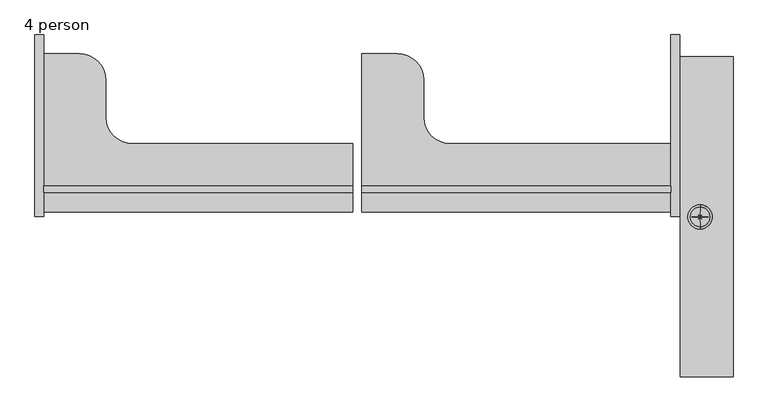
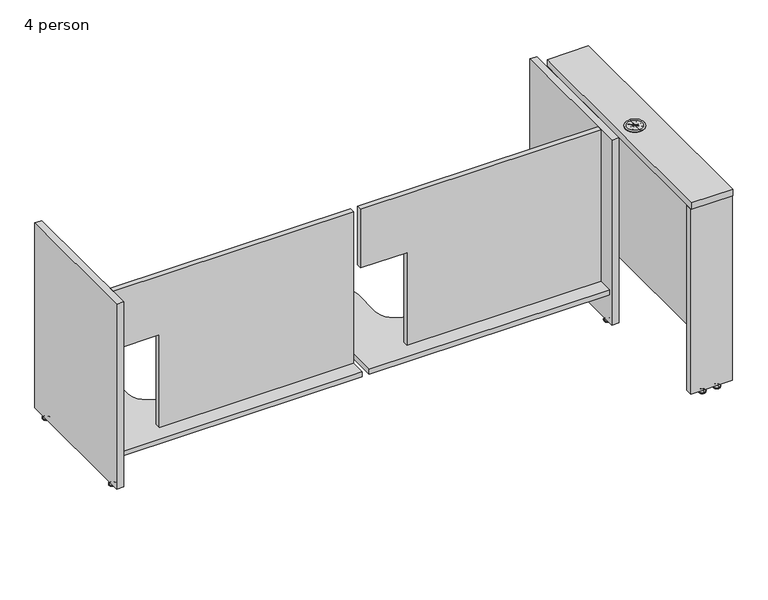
"""IFC4 building model written with IfcOpenShell, lengths in millimetres: furniture geometry, Nova Solutions - Collaboration Table - Keystone_4-5 person : 4 person."""

from ifc_helpers import new_model, si_unit, point, frame, frame_2d, origin, place, context, project, spatial, polyline, circle_curve, ellipse_curve, trimmed, segment, composite_curve, outline, extrude, source, transform, mapped, element, save
from ifc_brep_helpers import plane_surface, cylinder_surface, revolved_surface, advanced_brep


def furniture_4_person_910c4855(model_context):
    return source(origin(), model_context, "Body", "SolidModel", [
        advanced_brep(
        [(981.65, -34.925, 762.0), (981.65, 34.925, 762.0), (981.65, 24.6435157, 762.0), (980.503542, 2.7677944, 762.0), (964.2244029, 17.4255971, 762.0), (978.8822056, 1.146458, 762.0), (957.0064843, 0.0, 762.0), (978.8822056, -1.146458, 762.0), (964.2244029, -17.4255971, 762.0), (980.503542, -2.7677944, 762.0), (981.65, -24.6435157, 762.0), (982.796458, -2.7677944, 762.0), (999.0755971, -17.4255971, 762.0), (984.4177944, -1.146458, 762.0), (1006.2935157, 0.0, 762.0), (984.4177944, 1.146458, 762.0), (999.0755971, 17.4255971, 762.0), (982.796458, 2.7677944, 762.0), (981.65, -34.925, 763.3787817), (981.65, 34.925, 763.3787817), (981.65, -28.7119174, 765.175), (981.65, 28.7119174, 765.175), (981.65, -24.6435157, 765.175), (980.503542, -2.7677944, 765.175), (964.2244029, -17.4255971, 765.175), (978.8822056, -1.146458, 765.175), (957.0064843, 0.0, 765.175), (978.8822056, 1.146458, 765.175), (964.2244029, 17.4255971, 765.175), (980.503542, 2.7677944, 765.175), (981.65, 24.6435157, 765.175), (982.796458, 2.7677944, 765.175), (999.0755971, 17.4255971, 765.175), (984.4177944, 1.146458, 765.175), (1006.2935157, 0.0, 765.175), (984.4177944, -1.146458, 765.175), (999.0755971, -17.4255971, 765.175), (982.796458, -2.7677944, 765.175)],
        [
            (0, 1, circle_curve(frame((981.65, 0.0, 762.0), z_axis=(0.0, 0.0, -1.0), x_axis=(0.0, 1.0, 0.0)), 34.925)),
            (1, 2),
            (2, 3),
            (3, 4),
            (4, 5),
            (5, 6),
            (6, 7),
            (7, 8),
            (8, 9),
            (9, 10),
            (10, 0),
            (1, 0, circle_curve(frame((981.65, 0.0, 762.0), z_axis=(0.0, 0.0, -1.0), x_axis=(0.0, 1.0, 0.0)), 34.925)),
            (10, 11),
            (11, 12),
            (12, 13),
            (13, 14),
            (14, 15),
            (15, 16),
            (16, 17),
            (17, 2),
            (0, 18),
            (18, 19, circle_curve(frame((981.65, 0.0, 763.3787817), z_axis=(0.0, 0.0, -1.0), x_axis=(0.0, 1.0, 0.0)), 34.925)),
            (19, 1),
            (19, 18, circle_curve(frame((981.65, 0.0, 763.3787817), z_axis=(0.0, 0.0, -1.0), x_axis=(0.0, 1.0, 0.0)), 34.925)),
            (18, 20, circle_curve(frame((981.65, -31.558813, 763.3787817), z_axis=(-1.0, 0.0, 0.0), x_axis=(0.0, -1.0, 0.0)), 3.366187)),
            (20, 21, circle_curve(frame((981.65, 0.0, 765.175), z_axis=(0.0, 0.0, -1.0), x_axis=(0.0, 1.0, 0.0)), 28.7119174)),
            (21, 19, circle_curve(frame((981.65, 31.558813, 763.3787817), z_axis=(-1.0, 0.0, 0.0), x_axis=(0.0, 1.0, 0.0)), 3.366187)),
            (21, 20, circle_curve(frame((981.65, 0.0, 765.175), z_axis=(0.0, 0.0, -1.0), x_axis=(0.0, 1.0, 0.0)), 28.7119174)),
            (20, 22),
            (22, 23),
            (23, 24),
            (24, 25),
            (25, 26),
            (26, 27),
            (27, 28),
            (28, 29),
            (29, 30),
            (30, 21),
            (30, 31),
            (31, 32),
            (32, 33),
            (33, 34),
            (34, 35),
            (35, 36),
            (36, 37),
            (37, 22),
            (26, 6),
            (5, 27),
            (25, 7),
            (24, 8),
            (23, 9),
            (22, 10),
            (37, 11),
            (36, 12),
            (35, 13),
            (34, 14),
            (33, 15),
            (32, 16),
            (31, 17),
            (30, 2),
            (29, 3),
            (28, 4),
        ],
        [
            plane_surface(frame((981.65, 0.0, 762.0), z_axis=(0.0, 0.0, -1.0), x_axis=(0.0, 1.0, 0.0))),
            cylinder_surface(frame((981.65, 0.0, 850.9), z_axis=(0.0, 0.0, 1.0), x_axis=(0.0, 1.0, 0.0)), 34.925),
            revolved_surface(trimmed(ellipse_curve(frame((981.65, 31.558813, 763.3787817), z_axis=(1.0, 0.0, 0.0), x_axis=(0.0, 1.0, 0.0)), 3.366187, 3.366187), [point((981.65, 34.925, 763.3787817))], [point((981.65, 28.7119174, 765.175))], True, "CARTESIAN"), (981.65, 0.0, 850.9), (0.0, 0.0, 1.0)),
            plane_surface(frame((981.65, 0.0, 765.175), z_axis=(0.0, 0.0, 1.0), x_axis=(0.0, 1.0, 0.0))),
            plane_surface(frame((981.65, 1.2915119, 787.4), z_axis=(0.05233595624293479, -0.9986295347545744, 0.0), x_axis=(0.0, 0.0, -1.0))),
            plane_surface(frame((957.0064843, 0.0, 787.4), z_axis=(0.052335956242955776, 0.9986295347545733, 0.0), x_axis=(0.0, 0.0, -1.0))),
            plane_surface(frame((980.7367632, 0.9132368, 787.4), z_axis=(0.7431448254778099, -0.6691306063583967, 0.0), x_axis=(0.0, 0.0, -1.0))),
            plane_surface(frame((964.2244029, -17.4255971, 787.4), z_axis=(-0.6691306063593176, 0.7431448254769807, 0.0), x_axis=(0.0, 0.0, -1.0))),
            plane_surface(frame((980.3584881, 0.0, 787.4), z_axis=(0.9986295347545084, 0.05233595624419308, 0.0), x_axis=(0.0, 0.0, -1.0))),
            plane_surface(frame((981.65, -24.6435157, 787.4), z_axis=(-0.9986295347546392, 0.05233595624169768, 0.0), x_axis=(0.0, 0.0, -1.0))),
            plane_surface(frame((980.7367632, -0.9132368, 787.4), z_axis=(0.6691306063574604, 0.743144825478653, 0.0), x_axis=(0.0, 0.0, -1.0))),
            plane_surface(frame((999.0755971, -17.4255971, 787.4), z_axis=(-0.7431448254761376, -0.669130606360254, 0.0), x_axis=(0.0, 0.0, -1.0))),
            plane_surface(frame((981.65, -1.2915119, 787.4), z_axis=(-0.052335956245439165, 0.9986295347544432, 0.0), x_axis=(0.0, 0.0, -1.0))),
            plane_surface(frame((1006.2935157, 0.0, 787.4), z_axis=(-0.05233595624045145, -0.9986295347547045, 0.0), x_axis=(0.0, 0.0, -1.0))),
            plane_surface(frame((982.5632368, -0.9132368, 787.4), z_axis=(-0.7431448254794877, 0.6691306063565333, 0.0), x_axis=(0.0, 0.0, -1.0))),
            plane_surface(frame((999.0755971, 17.4255971, 787.4), z_axis=(0.669130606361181, -0.7431448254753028, 0.0), x_axis=(0.0, 0.0, -1.0))),
            plane_surface(frame((982.9415119, 0.0, 787.4), z_axis=(-0.9986295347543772, -0.05233595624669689, 0.0), x_axis=(0.0, 0.0, -1.0))),
            plane_surface(frame((981.65, 24.6435157, 787.4), z_axis=(0.9986295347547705, -0.05233595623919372, 0.0), x_axis=(0.0, 0.0, -1.0))),
            plane_surface(frame((982.5632368, 0.9132368, 787.4), z_axis=(-0.6691306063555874, -0.7431448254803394, 0.0), x_axis=(0.0, 0.0, -1.0))),
            plane_surface(frame((964.2244029, 17.4255971, 787.4), z_axis=(0.743144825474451, 0.669130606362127, 0.0), x_axis=(0.0, 0.0, -1.0))),
        ],
        [
            (0, [[1, 2, 3, 4, 5, 6, 7, 8, 9, 10, 11]]),
            (0, [[12, -11, 13, 14, 15, 16, 17, 18, 19, 20, -2]]),
            (1, [[-1, 21, 22, 23]]),
            (1, [[-12, -23, 24, -21]]),
            (2, [[-22, 25, 26, 27]]),
            (2, [[-24, -27, 28, -25]]),
            (3, [[-26, 29, 30, 31, 32, 33, 34, 35, 36, 37, 38]]),
            (3, [[-28, -38, 39, 40, 41, 42, 43, 44, 45, 46, -29]]),
            (4, [[47, -6, 48, -34]]),
            (5, [[-47, -33, 49, -7]]),
            (6, [[50, -8, -49, -32]]),
            (7, [[-50, -31, 51, -9]]),
            (8, [[52, -10, -51, -30]]),
            (9, [[-52, -46, 53, -13]]),
            (10, [[54, -14, -53, -45]]),
            (11, [[-54, -44, 55, -15]]),
            (12, [[56, -16, -55, -43]]),
            (13, [[-56, -42, 57, -17]]),
            (14, [[58, -18, -57, -41]]),
            (15, [[-58, -40, 59, -19]]),
            (16, [[60, -20, -59, -39]]),
            (17, [[-60, -37, 61, -3]]),
            (18, [[62, -4, -61, -36]]),
            (19, [[-62, -35, -48, -5]]),
        ],
    ),
        advanced_brep(
        [(1027.6359375, 451.0276506, 11.1125), (1027.6359375, 437.6723494, 11.1125), (1027.6359375, 444.35, 11.1125), (1027.6359375, 451.0276506, 9.525), (1027.6359375, 437.6723494, 9.525), (1027.6359375, 456.2355135, 4.7748687), (1027.6359375, 432.4644865, 4.7748687), (1027.6359375, 457.0966506, 3.989419), (1027.6359375, 431.6033494, 3.989419), (1027.6359375, 457.0966506, 3.175), (1027.6359375, 431.6033494, 3.175), (1027.6359375, 456.2459119, 0.0), (1027.6359375, 432.4540881, 0.0), (1027.6359375, 444.35, 0.0)],
        [
            (0, 1, circle_curve(frame((1027.6359375, 444.35, 11.1125), z_axis=(0.0, 0.0, 1.0), x_axis=(0.0, -1.0, 0.0)), 6.6776506)),
            (1, 2),
            (2, 0),
            (1, 0, circle_curve(frame((1027.6359375, 444.35, 11.1125), z_axis=(0.0, 0.0, 1.0), x_axis=(0.0, -1.0, 0.0)), 6.6776506)),
            (3, 4, circle_curve(frame((1027.6359375, 444.35, 9.525), z_axis=(0.0, 0.0, 1.0), x_axis=(0.0, -1.0, 0.0)), 6.6776506)),
            (4, 1),
            (0, 3),
            (4, 3, circle_curve(frame((1027.6359375, 444.35, 9.525), z_axis=(0.0, 0.0, 1.0), x_axis=(0.0, -1.0, 0.0)), 6.6776506)),
            (5, 6, circle_curve(frame((1027.6359375, 444.35, 4.7748687), z_axis=(0.0, 0.0, 1.0), x_axis=(0.0, -1.0, 0.0)), 11.8855135)),
            (6, 4, circle_curve(frame((1027.6359375, 431.4179373, 11.1521822), z_axis=(1.0, 0.0, 0.0), x_axis=(0.0, 1.0, 0.0)), 6.462615)),
            (3, 5, circle_curve(frame((1027.6359375, 457.2820627, 11.1521822), z_axis=(1.0, 0.0, 0.0), x_axis=(0.0, -1.0, 0.0)), 6.462615)),
            (6, 5, circle_curve(frame((1027.6359375, 444.35, 4.7748687), z_axis=(0.0, 0.0, 1.0), x_axis=(0.0, -1.0, 0.0)), 11.8855135)),
            (7, 8, circle_curve(frame((1027.6359375, 444.35, 3.989419), z_axis=(0.0, 0.0, 1.0), x_axis=(0.0, -1.0, 0.0)), 12.7466506)),
            (8, 6, circle_curve(frame((1027.6359375, 432.6375368, 3.7203591), z_axis=(-1.0, 0.0, 0.0), x_axis=(0.0, 1.0, 0.0)), 1.0686145)),
            (5, 7, circle_curve(frame((1027.6359375, 456.0624632, 3.7203591), z_axis=(-1.0, 0.0, 0.0), x_axis=(0.0, -1.0, 0.0)), 1.0686145)),
            (8, 7, circle_curve(frame((1027.6359375, 444.35, 3.989419), z_axis=(0.0, 0.0, 1.0), x_axis=(0.0, -1.0, 0.0)), 12.7466506)),
            (9, 10, circle_curve(frame((1027.6359375, 444.35, 3.175), z_axis=(0.0, 0.0, 1.0), x_axis=(0.0, -1.0, 0.0)), 12.7466506)),
            (10, 8),
            (7, 9),
            (10, 9, circle_curve(frame((1027.6359375, 444.35, 3.175), z_axis=(0.0, 0.0, 1.0), x_axis=(0.0, -1.0, 0.0)), 12.7466506)),
            (11, 12, circle_curve(frame((1027.6359375, 444.35, 0.0), z_axis=(0.0, 0.0, 1.0), x_axis=(0.0, -1.0, 0.0)), 11.8959119)),
            (12, 10),
            (9, 11),
            (12, 11, circle_curve(frame((1027.6359375, 444.35, 0.0), z_axis=(0.0, 0.0, 1.0), x_axis=(0.0, -1.0, 0.0)), 11.8959119)),
            (13, 12),
            (11, 13),
        ],
        [
            plane_surface(frame((1027.6359375, 444.35, 11.1125), z_axis=(0.0, 0.0, 1.0), x_axis=(0.0, -1.0, 0.0))),
            cylinder_surface(frame((1027.6359375, 444.35, 43.2095994), z_axis=(0.0, 0.0, -1.0), x_axis=(0.0, -1.0, 0.0)), 6.6776506),
            revolved_surface(trimmed(ellipse_curve(frame((1027.6359375, 431.4179373, 11.1521822), z_axis=(-1.0, 0.0, 0.0), x_axis=(0.0, 1.0, 0.0)), 6.462615, 6.462615), [point((1027.6359375, 437.6723494, 9.525))], [point((1027.6359375, 432.4644865, 4.7748687))], True, "CARTESIAN"), (1027.6359375, 444.35, 43.2095994), (0.0, 0.0, -1.0)),
            revolved_surface(trimmed(ellipse_curve(frame((1027.6359375, 432.6375368, 3.7203591), z_axis=(1.0, 0.0, 0.0), x_axis=(0.0, 1.0, 0.0)), 1.0686145, 1.0686145), [point((1027.6359375, 432.4644865, 4.7748687))], [point((1027.6359375, 431.6033494, 3.989419))], True, "CARTESIAN"), (1027.6359375, 444.35, 43.2095994), (0.0, 0.0, -1.0)),
            cylinder_surface(frame((1027.6359375, 444.35, 43.2095994), z_axis=(0.0, 0.0, -1.0), x_axis=(0.0, -1.0, 0.0)), 12.7466506),
            revolved_surface(polyline([(1027.6359375, 431.6033494, 3.175), (1027.6359375, 432.4540881, 0.0)]), (1027.6359375, 444.35, 43.2095994), (0.0, 0.0, -1.0)),
            plane_surface(frame((1027.6359375, 444.35, 0.0), z_axis=(0.0, 0.0, -1.0), x_axis=(0.0, -1.0, 0.0))),
        ],
        [
            (0, [[1, 2, 3]]),
            (0, [[4, -3, -2]]),
            (1, [[5, 6, -1, 7]]),
            (1, [[8, -7, -4, -6]]),
            (2, [[9, 10, -5, 11]]),
            (2, [[12, -11, -8, -10]]),
            (3, [[13, 14, -9, 15]]),
            (3, [[16, -15, -12, -14]]),
            (4, [[17, 18, -13, 19]]),
            (4, [[20, -19, -16, -18]]),
            (5, [[21, 22, -17, 23]]),
            (5, [[24, -23, -20, -22]]),
            (6, [[25, -21, 26]]),
            (6, [[-26, -24, -25]]),
        ],
    ),
        advanced_brep(
        [(973.2640625, 451.0276506, 11.1125), (973.2640625, 437.6723494, 11.1125), (973.2640625, 444.35, 11.1125), (973.2640625, 451.0276506, 9.525), (973.2640625, 437.6723494, 9.525), (973.2640625, 456.2355135, 4.7748687), (973.2640625, 432.4644865, 4.7748687), (973.2640625, 457.0966506, 3.989419), (973.2640625, 431.6033494, 3.989419), (973.2640625, 457.0966506, 3.175), (973.2640625, 431.6033494, 3.175), (973.2640625, 456.2459119, 0.0), (973.2640625, 432.4540881, 0.0), (973.2640625, 444.35, 0.0)],
        [
            (0, 1, circle_curve(frame((973.2640625, 444.35, 11.1125), z_axis=(0.0, 0.0, 1.0), x_axis=(0.0, -1.0, 0.0)), 6.6776506)),
            (1, 2),
            (2, 0),
            (1, 0, circle_curve(frame((973.2640625, 444.35, 11.1125), z_axis=(0.0, 0.0, 1.0), x_axis=(0.0, -1.0, 0.0)), 6.6776506)),
            (3, 4, circle_curve(frame((973.2640625, 444.35, 9.525), z_axis=(0.0, 0.0, 1.0), x_axis=(0.0, -1.0, 0.0)), 6.6776506)),
            (4, 1),
            (0, 3),
            (4, 3, circle_curve(frame((973.2640625, 444.35, 9.525), z_axis=(0.0, 0.0, 1.0), x_axis=(0.0, -1.0, 0.0)), 6.6776506)),
            (5, 6, circle_curve(frame((973.2640625, 444.35, 4.7748687), z_axis=(0.0, 0.0, 1.0), x_axis=(0.0, -1.0, 0.0)), 11.8855135)),
            (6, 4, circle_curve(frame((973.2640625, 431.4179373, 11.1521822), z_axis=(1.0, 0.0, 0.0), x_axis=(0.0, 1.0, 0.0)), 6.462615)),
            (3, 5, circle_curve(frame((973.2640625, 457.2820627, 11.1521822), z_axis=(1.0, 0.0, 0.0), x_axis=(0.0, -1.0, 0.0)), 6.462615)),
            (6, 5, circle_curve(frame((973.2640625, 444.35, 4.7748687), z_axis=(0.0, 0.0, 1.0), x_axis=(0.0, -1.0, 0.0)), 11.8855135)),
            (7, 8, circle_curve(frame((973.2640625, 444.35, 3.989419), z_axis=(0.0, 0.0, 1.0), x_axis=(0.0, -1.0, 0.0)), 12.7466506)),
            (8, 6, circle_curve(frame((973.2640625, 432.6375368, 3.7203591), z_axis=(-1.0, 0.0, 0.0), x_axis=(0.0, 1.0, 0.0)), 1.0686145)),
            (5, 7, circle_curve(frame((973.2640625, 456.0624632, 3.7203591), z_axis=(-1.0, 0.0, 0.0), x_axis=(0.0, -1.0, 0.0)), 1.0686145)),
            (8, 7, circle_curve(frame((973.2640625, 444.35, 3.989419), z_axis=(0.0, 0.0, 1.0), x_axis=(0.0, -1.0, 0.0)), 12.7466506)),
            (9, 10, circle_curve(frame((973.2640625, 444.35, 3.175), z_axis=(0.0, 0.0, 1.0), x_axis=(0.0, -1.0, 0.0)), 12.7466506)),
            (10, 8),
            (7, 9),
            (10, 9, circle_curve(frame((973.2640625, 444.35, 3.175), z_axis=(0.0, 0.0, 1.0), x_axis=(0.0, -1.0, 0.0)), 12.7466506)),
            (11, 12, circle_curve(frame((973.2640625, 444.35, 0.0), z_axis=(0.0, 0.0, 1.0), x_axis=(0.0, -1.0, 0.0)), 11.8959119)),
            (12, 10),
            (9, 11),
            (12, 11, circle_curve(frame((973.2640625, 444.35, 0.0), z_axis=(0.0, 0.0, 1.0), x_axis=(0.0, -1.0, 0.0)), 11.8959119)),
            (13, 12),
            (11, 13),
        ],
        [
            plane_surface(frame((973.2640625, 444.35, 11.1125), z_axis=(0.0, 0.0, 1.0), x_axis=(0.0, -1.0, 0.0))),
            cylinder_surface(frame((973.2640625, 444.35, 43.2095994), z_axis=(0.0, 0.0, -1.0), x_axis=(0.0, -1.0, 0.0)), 6.6776506),
            revolved_surface(trimmed(ellipse_curve(frame((973.2640625, 431.4179373, 11.1521822), z_axis=(-1.0, 0.0, 0.0), x_axis=(0.0, 1.0, 0.0)), 6.462615, 6.462615), [point((973.2640625, 437.6723494, 9.525))], [point((973.2640625, 432.4644865, 4.7748687))], True, "CARTESIAN"), (973.2640625, 444.35, 43.2095994), (0.0, 0.0, -1.0)),
            revolved_surface(trimmed(ellipse_curve(frame((973.2640625, 432.6375368, 3.7203591), z_axis=(1.0, 0.0, 0.0), x_axis=(0.0, 1.0, 0.0)), 1.0686145, 1.0686145), [point((973.2640625, 432.4644865, 4.7748687))], [point((973.2640625, 431.6033494, 3.989419))], True, "CARTESIAN"), (973.2640625, 444.35, 43.2095994), (0.0, 0.0, -1.0)),
            cylinder_surface(frame((973.2640625, 444.35, 43.2095994), z_axis=(0.0, 0.0, -1.0), x_axis=(0.0, -1.0, 0.0)), 12.7466506),
            revolved_surface(polyline([(973.2640625, 431.6033494, 3.175), (973.2640625, 432.4540881, 0.0)]), (973.2640625, 444.35, 43.2095994), (0.0, 0.0, -1.0)),
            plane_surface(frame((973.2640625, 444.35, 0.0), z_axis=(0.0, 0.0, -1.0), x_axis=(0.0, -1.0, 0.0))),
        ],
        [
            (0, [[1, 2, 3]]),
            (0, [[4, -3, -2]]),
            (1, [[5, 6, -1, 7]]),
            (1, [[8, -7, -4, -6]]),
            (2, [[9, 10, -5, 11]]),
            (2, [[12, -11, -8, -10]]),
            (3, [[13, 14, -9, 15]]),
            (3, [[16, -15, -12, -14]]),
            (4, [[17, 18, -13, 19]]),
            (4, [[20, -19, -16, -18]]),
            (5, [[21, 22, -17, 23]]),
            (5, [[24, -23, -20, -22]]),
            (6, [[25, -21, 26]]),
            (6, [[-26, -24, -25]]),
        ],
    ),
        extrude(outline(polyline([(924.25, 457.2), (1076.65, 457.2), (1076.65, 431.5), (924.25, 431.5), (924.25, 457.2)])), frame((0.0, 0.0, 15.6), z_axis=(0.0, 0.0, 1.0), x_axis=(1.0, 0.0, 0.0)), (0.0, 0.0, 1.0), 720.7),
        advanced_brep(
        [(1027.6359375, -451.0276506, 11.1125), (1027.6359375, -444.35, 11.1125), (1027.6359375, -437.6723494, 11.1125), (1027.6359375, -451.0276506, 9.525), (1027.6359375, -437.6723494, 9.525), (1027.6359375, -456.2355135, 4.7748687), (1027.6359375, -432.4644865, 4.7748687), (1027.6359375, -457.0966506, 3.989419), (1027.6359375, -431.6033494, 3.989419), (1027.6359375, -457.0966506, 3.175), (1027.6359375, -431.6033494, 3.175), (1027.6359375, -456.2459119, 0.0), (1027.6359375, -432.4540881, 0.0), (1027.6359375, -444.35, 0.0)],
        [
            (0, 1),
            (1, 2),
            (2, 0, circle_curve(frame((1027.6359375, -444.35, 11.1125), z_axis=(0.0, 0.0, 1.0), x_axis=(0.0, 1.0, 0.0)), 6.6776506)),
            (0, 2, circle_curve(frame((1027.6359375, -444.35, 11.1125), z_axis=(0.0, 0.0, 1.0), x_axis=(0.0, 1.0, 0.0)), 6.6776506)),
            (3, 0),
            (2, 4),
            (4, 3, circle_curve(frame((1027.6359375, -444.35, 9.525), z_axis=(0.0, 0.0, 1.0), x_axis=(0.0, 1.0, 0.0)), 6.6776506)),
            (3, 4, circle_curve(frame((1027.6359375, -444.35, 9.525), z_axis=(0.0, 0.0, 1.0), x_axis=(0.0, 1.0, 0.0)), 6.6776506)),
            (5, 3, circle_curve(frame((1027.6359375, -457.2820627, 11.1521822), z_axis=(1.0, 0.0, 0.0), x_axis=(0.0, 1.0, 0.0)), 6.462615)),
            (4, 6, circle_curve(frame((1027.6359375, -431.4179373, 11.1521822), z_axis=(1.0, 0.0, 0.0), x_axis=(0.0, -1.0, 0.0)), 6.462615)),
            (6, 5, circle_curve(frame((1027.6359375, -444.35, 4.7748687), z_axis=(0.0, 0.0, 1.0), x_axis=(0.0, 1.0, 0.0)), 11.8855135)),
            (5, 6, circle_curve(frame((1027.6359375, -444.35, 4.7748687), z_axis=(0.0, 0.0, 1.0), x_axis=(0.0, 1.0, 0.0)), 11.8855135)),
            (7, 5, circle_curve(frame((1027.6359375, -456.0624632, 3.7203591), z_axis=(-1.0, 0.0, 0.0), x_axis=(0.0, 1.0, 0.0)), 1.0686145)),
            (6, 8, circle_curve(frame((1027.6359375, -432.6375368, 3.7203591), z_axis=(-1.0, 0.0, 0.0), x_axis=(0.0, -1.0, 0.0)), 1.0686145)),
            (8, 7, circle_curve(frame((1027.6359375, -444.35, 3.989419), z_axis=(0.0, 0.0, 1.0), x_axis=(0.0, 1.0, 0.0)), 12.7466506)),
            (7, 8, circle_curve(frame((1027.6359375, -444.35, 3.989419), z_axis=(0.0, 0.0, 1.0), x_axis=(0.0, 1.0, 0.0)), 12.7466506)),
            (9, 7),
            (8, 10),
            (10, 9, circle_curve(frame((1027.6359375, -444.35, 3.175), z_axis=(0.0, 0.0, 1.0), x_axis=(0.0, 1.0, 0.0)), 12.7466506)),
            (9, 10, circle_curve(frame((1027.6359375, -444.35, 3.175), z_axis=(0.0, 0.0, 1.0), x_axis=(0.0, 1.0, 0.0)), 12.7466506)),
            (11, 9),
            (10, 12),
            (12, 11, circle_curve(frame((1027.6359375, -444.35, 0.0), z_axis=(0.0, 0.0, 1.0), x_axis=(0.0, 1.0, 0.0)), 11.8959119)),
            (11, 12, circle_curve(frame((1027.6359375, -444.35, 0.0), z_axis=(0.0, 0.0, 1.0), x_axis=(0.0, 1.0, 0.0)), 11.8959119)),
            (13, 11),
            (12, 13),
        ],
        [
            plane_surface(frame((1027.6359375, -444.35, 11.1125), z_axis=(0.0, 0.0, 1.0), x_axis=(0.0, 1.0, 0.0))),
            cylinder_surface(frame((1027.6359375, -444.35, 43.2095994), z_axis=(0.0, 0.0, -1.0), x_axis=(0.0, 1.0, 0.0)), 6.6776506),
            revolved_surface(trimmed(ellipse_curve(frame((1027.6359375, -431.4179373, 11.1521822), z_axis=(1.0, 0.0, 0.0), x_axis=(0.0, -1.0, 0.0)), 6.462615, 6.462615), [point((1027.6359375, -437.6723494, 9.525))], [point((1027.6359375, -432.4644865, 4.7748687))], True, "CARTESIAN"), (1027.6359375, -444.35, 43.2095994), (0.0, 0.0, -1.0)),
            revolved_surface(trimmed(ellipse_curve(frame((1027.6359375, -432.6375368, 3.7203591), z_axis=(-1.0, 0.0, 0.0), x_axis=(0.0, -1.0, 0.0)), 1.0686145, 1.0686145), [point((1027.6359375, -432.4644865, 4.7748687))], [point((1027.6359375, -431.6033494, 3.989419))], True, "CARTESIAN"), (1027.6359375, -444.35, 43.2095994), (0.0, 0.0, -1.0)),
            cylinder_surface(frame((1027.6359375, -444.35, 43.2095994), z_axis=(0.0, 0.0, -1.0), x_axis=(0.0, 1.0, 0.0)), 12.7466506),
            revolved_surface(polyline([(1027.6359375, -431.6033494, 3.175), (1027.6359375, -432.4540881, 0.0)]), (1027.6359375, -444.35, 43.2095994), (0.0, 0.0, -1.0)),
            plane_surface(frame((1027.6359375, -444.35, 0.0), z_axis=(0.0, 0.0, -1.0), x_axis=(0.0, 1.0, 0.0))),
        ],
        [
            (0, [[1, 2, 3]]),
            (0, [[-2, -1, 4]]),
            (1, [[5, -3, 6, 7]]),
            (1, [[-6, -4, -5, 8]]),
            (2, [[9, -7, 10, 11]]),
            (2, [[-10, -8, -9, 12]]),
            (3, [[13, -11, 14, 15]]),
            (3, [[-14, -12, -13, 16]]),
            (4, [[17, -15, 18, 19]]),
            (4, [[-18, -16, -17, 20]]),
            (5, [[21, -19, 22, 23]]),
            (5, [[-22, -20, -21, 24]]),
            (6, [[25, -23, 26]]),
            (6, [[-26, -24, -25]]),
        ],
    ),
        advanced_brep(
        [(973.2640625, -451.0276506, 11.1125), (973.2640625, -444.35, 11.1125), (973.2640625, -437.6723494, 11.1125), (973.2640625, -451.0276506, 9.525), (973.2640625, -437.6723494, 9.525), (973.2640625, -456.2355135, 4.7748687), (973.2640625, -432.4644865, 4.7748687), (973.2640625, -457.0966506, 3.989419), (973.2640625, -431.6033494, 3.989419), (973.2640625, -457.0966506, 3.175), (973.2640625, -431.6033494, 3.175), (973.2640625, -456.2459119, 0.0), (973.2640625, -432.4540881, 0.0), (973.2640625, -444.35, 0.0)],
        [
            (0, 1),
            (1, 2),
            (2, 0, circle_curve(frame((973.2640625, -444.35, 11.1125), z_axis=(0.0, 0.0, 1.0), x_axis=(0.0, 1.0, 0.0)), 6.6776506)),
            (0, 2, circle_curve(frame((973.2640625, -444.35, 11.1125), z_axis=(0.0, 0.0, 1.0), x_axis=(0.0, 1.0, 0.0)), 6.6776506)),
            (3, 0),
            (2, 4),
            (4, 3, circle_curve(frame((973.2640625, -444.35, 9.525), z_axis=(0.0, 0.0, 1.0), x_axis=(0.0, 1.0, 0.0)), 6.6776506)),
            (3, 4, circle_curve(frame((973.2640625, -444.35, 9.525), z_axis=(0.0, 0.0, 1.0), x_axis=(0.0, 1.0, 0.0)), 6.6776506)),
            (5, 3, circle_curve(frame((973.2640625, -457.2820627, 11.1521822), z_axis=(1.0, 0.0, 0.0), x_axis=(0.0, 1.0, 0.0)), 6.462615)),
            (4, 6, circle_curve(frame((973.2640625, -431.4179373, 11.1521822), z_axis=(1.0, 0.0, 0.0), x_axis=(0.0, -1.0, 0.0)), 6.462615)),
            (6, 5, circle_curve(frame((973.2640625, -444.35, 4.7748687), z_axis=(0.0, 0.0, 1.0), x_axis=(0.0, 1.0, 0.0)), 11.8855135)),
            (5, 6, circle_curve(frame((973.2640625, -444.35, 4.7748687), z_axis=(0.0, 0.0, 1.0), x_axis=(0.0, 1.0, 0.0)), 11.8855135)),
            (7, 5, circle_curve(frame((973.2640625, -456.0624632, 3.7203591), z_axis=(-1.0, 0.0, 0.0), x_axis=(0.0, 1.0, 0.0)), 1.0686145)),
            (6, 8, circle_curve(frame((973.2640625, -432.6375368, 3.7203591), z_axis=(-1.0, 0.0, 0.0), x_axis=(0.0, -1.0, 0.0)), 1.0686145)),
            (8, 7, circle_curve(frame((973.2640625, -444.35, 3.989419), z_axis=(0.0, 0.0, 1.0), x_axis=(0.0, 1.0, 0.0)), 12.7466506)),
            (7, 8, circle_curve(frame((973.2640625, -444.35, 3.989419), z_axis=(0.0, 0.0, 1.0), x_axis=(0.0, 1.0, 0.0)), 12.7466506)),
            (9, 7),
            (8, 10),
            (10, 9, circle_curve(frame((973.2640625, -444.35, 3.175), z_axis=(0.0, 0.0, 1.0), x_axis=(0.0, 1.0, 0.0)), 12.7466506)),
            (9, 10, circle_curve(frame((973.2640625, -444.35, 3.175), z_axis=(0.0, 0.0, 1.0), x_axis=(0.0, 1.0, 0.0)), 12.7466506)),
            (11, 9),
            (10, 12),
            (12, 11, circle_curve(frame((973.2640625, -444.35, 0.0), z_axis=(0.0, 0.0, 1.0), x_axis=(0.0, 1.0, 0.0)), 11.8959119)),
            (11, 12, circle_curve(frame((973.2640625, -444.35, 0.0), z_axis=(0.0, 0.0, 1.0), x_axis=(0.0, 1.0, 0.0)), 11.8959119)),
            (13, 11),
            (12, 13),
        ],
        [
            plane_surface(frame((973.2640625, -444.35, 11.1125), z_axis=(0.0, 0.0, 1.0), x_axis=(0.0, 1.0, 0.0))),
            cylinder_surface(frame((973.2640625, -444.35, 43.2095994), z_axis=(0.0, 0.0, -1.0), x_axis=(0.0, 1.0, 0.0)), 6.6776506),
            revolved_surface(trimmed(ellipse_curve(frame((973.2640625, -431.4179373, 11.1521822), z_axis=(1.0, 0.0, 0.0), x_axis=(0.0, -1.0, 0.0)), 6.462615, 6.462615), [point((973.2640625, -437.6723494, 9.525))], [point((973.2640625, -432.4644865, 4.7748687))], True, "CARTESIAN"), (973.2640625, -444.35, 43.2095994), (0.0, 0.0, -1.0)),
            revolved_surface(trimmed(ellipse_curve(frame((973.2640625, -432.6375368, 3.7203591), z_axis=(-1.0, 0.0, 0.0), x_axis=(0.0, -1.0, 0.0)), 1.0686145, 1.0686145), [point((973.2640625, -432.4644865, 4.7748687))], [point((973.2640625, -431.6033494, 3.989419))], True, "CARTESIAN"), (973.2640625, -444.35, 43.2095994), (0.0, 0.0, -1.0)),
            cylinder_surface(frame((973.2640625, -444.35, 43.2095994), z_axis=(0.0, 0.0, -1.0), x_axis=(0.0, 1.0, 0.0)), 12.7466506),
            revolved_surface(polyline([(973.2640625, -431.6033494, 3.175), (973.2640625, -432.4540881, 0.0)]), (973.2640625, -444.35, 43.2095994), (0.0, 0.0, -1.0)),
            plane_surface(frame((973.2640625, -444.35, 0.0), z_axis=(0.0, 0.0, -1.0), x_axis=(0.0, 1.0, 0.0))),
        ],
        [
            (0, [[1, 2, 3]]),
            (0, [[-2, -1, 4]]),
            (1, [[5, -3, 6, 7]]),
            (1, [[-6, -4, -5, 8]]),
            (2, [[9, -7, 10, 11]]),
            (2, [[-10, -8, -9, 12]]),
            (3, [[13, -11, 14, 15]]),
            (3, [[-14, -12, -13, 16]]),
            (4, [[17, -15, 18, 19]]),
            (4, [[-18, -16, -17, 20]]),
            (5, [[21, -19, 22, 23]]),
            (5, [[-22, -20, -21, 24]]),
            (6, [[25, -23, 26]]),
            (6, [[-26, -24, -25]]),
        ],
    ),
        extrude(outline(polyline([(924.25, -457.2), (924.25, -431.5), (1076.65, -431.5), (1076.65, -457.2), (924.25, -457.2)])), frame((0.0, 0.0, 15.6), z_axis=(0.0, 0.0, 1.0), x_axis=(1.0, 0.0, 0.0)), (0.0, 0.0, 1.0), 720.7),
        extrude(outline(polyline([(1076.07, -431.0), (1057.02, -431.0), (1057.02, 431.0), (1076.07, 431.0), (1076.07, -431.0)])), frame((0.0, 0.0, 85.615), z_axis=(0.0, 0.0, 1.0), x_axis=(1.0, 0.0, 0.0)), (0.0, 0.0, 1.0), 625.285),
        extrude(outline(polyline([(1076.65, 460.1), (1076.65, -460.1), (924.25, -460.1), (924.25, 460.1), (1076.65, 460.1)])), frame((0.0, 0.0, 736.3), z_axis=(0.0, 0.0, 1.0), x_axis=(1.0, 0.0, 0.0)), (0.0, 0.0, 1.0), 25.7),
        extrude(outline(polyline([(145.5, 897.15), (736.3, 897.15), (736.3, 10.05), (507.4, 10.05), (507.4, 181.05), (145.5, 181.05), (145.5, 897.15)])), frame((0.0, 69.345, 0.0), z_axis=(0.0, 1.0, 0.0), x_axis=(0.0, 0.0, 1.0)), (0.0, 0.0, 1.0), 19.2),
        extrude(outline(composite_curve([segment(polyline([(897.15, 14.045), (10.05, 14.045), (10.05, 469.9075), (111.65, 469.9075)]), True, "CONTINUOUS"), segment(trimmed(circle_curve(frame_2d((111.65, 393.7075)), 76.2), [point((111.65, 469.9075))], [point((187.85, 393.7075))], False, "CARTESIAN"), True, "CONTINUOUS"), segment(polyline([(187.85, 393.7075), (187.85, 286.545)]), True, "CONTINUOUS"), segment(trimmed(circle_curve(frame_2d((264.05, 286.545)), 76.2), [point((187.85, 286.545))], [point((264.05, 210.345))], True, "CARTESIAN"), True, "CONTINUOUS"), segment(polyline([(264.05, 210.345), (897.15, 210.345), (897.15, 14.045)]), True, "CONTINUOUS")], self_intersect=False)), frame((0.0, 0.0, 126.3), z_axis=(0.0, 0.0, 1.0), x_axis=(1.0, 0.0, 0.0)), (0.0, 0.0, 1.0), 19.2),
        advanced_brep(
        [(916.6776506, 474.3309375, 11.1125), (910.0, 474.3309375, 11.1125), (903.3223494, 474.3309375, 11.1125), (916.6776506, 474.3309375, 9.525), (903.3223494, 474.3309375, 9.525), (921.8855135, 474.3309375, 4.7748687), (898.1144865, 474.3309375, 4.7748687), (922.7466506, 474.3309375, 3.989419), (897.2533494, 474.3309375, 3.989419), (922.7466506, 474.3309375, 3.175), (897.2533494, 474.3309375, 3.175), (921.8959119, 474.3309375, 0.0), (898.1040881, 474.3309375, 0.0), (910.0, 474.3309375, 0.0)],
        [
            (0, 1),
            (1, 2),
            (2, 0, circle_curve(frame((910.0, 474.3309375, 11.1125), z_axis=(0.0, 0.0, 1.0), x_axis=(-1.0, 0.0, 0.0)), 6.6776506)),
            (0, 2, circle_curve(frame((910.0, 474.3309375, 11.1125), z_axis=(0.0, 0.0, 1.0), x_axis=(-1.0, 0.0, 0.0)), 6.6776506)),
            (3, 0),
            (2, 4),
            (4, 3, circle_curve(frame((910.0, 474.3309375, 9.525), z_axis=(0.0, 0.0, 1.0), x_axis=(-1.0, 0.0, 0.0)), 6.6776506)),
            (3, 4, circle_curve(frame((910.0, 474.3309375, 9.525), z_axis=(0.0, 0.0, 1.0), x_axis=(-1.0, 0.0, 0.0)), 6.6776506)),
            (5, 3, circle_curve(frame((922.9320627, 474.3309375, 11.1521822), z_axis=(0.0, 1.0, 0.0), x_axis=(-1.0, 0.0, 0.0)), 6.462615)),
            (4, 6, circle_curve(frame((897.0679373, 474.3309375, 11.1521822), z_axis=(0.0, 1.0, 0.0), x_axis=(1.0, 0.0, 0.0)), 6.462615)),
            (6, 5, circle_curve(frame((910.0, 474.3309375, 4.7748687), z_axis=(0.0, 0.0, 1.0), x_axis=(-1.0, 0.0, 0.0)), 11.8855135)),
            (5, 6, circle_curve(frame((910.0, 474.3309375, 4.7748687), z_axis=(0.0, 0.0, 1.0), x_axis=(-1.0, 0.0, 0.0)), 11.8855135)),
            (7, 5, circle_curve(frame((921.7124632, 474.3309375, 3.7203591), z_axis=(0.0, -1.0, 0.0), x_axis=(-1.0, 0.0, 0.0)), 1.0686145)),
            (6, 8, circle_curve(frame((898.2875368, 474.3309375, 3.7203591), z_axis=(0.0, -1.0, 0.0), x_axis=(1.0, 0.0, 0.0)), 1.0686145)),
            (8, 7, circle_curve(frame((910.0, 474.3309375, 3.989419), z_axis=(0.0, 0.0, 1.0), x_axis=(-1.0, 0.0, 0.0)), 12.7466506)),
            (7, 8, circle_curve(frame((910.0, 474.3309375, 3.989419), z_axis=(0.0, 0.0, 1.0), x_axis=(-1.0, 0.0, 0.0)), 12.7466506)),
            (9, 7),
            (8, 10),
            (10, 9, circle_curve(frame((910.0, 474.3309375, 3.175), z_axis=(0.0, 0.0, 1.0), x_axis=(-1.0, 0.0, 0.0)), 12.7466506)),
            (9, 10, circle_curve(frame((910.0, 474.3309375, 3.175), z_axis=(0.0, 0.0, 1.0), x_axis=(-1.0, 0.0, 0.0)), 12.7466506)),
            (11, 9),
            (10, 12),
            (12, 11, circle_curve(frame((910.0, 474.3309375, 0.0), z_axis=(0.0, 0.0, 1.0), x_axis=(-1.0, 0.0, 0.0)), 11.8959119)),
            (11, 12, circle_curve(frame((910.0, 474.3309375, 0.0), z_axis=(0.0, 0.0, 1.0), x_axis=(-1.0, 0.0, 0.0)), 11.8959119)),
            (13, 11),
            (12, 13),
        ],
        [
            plane_surface(frame((910.0, 474.3309375, 11.1125), z_axis=(0.0, 0.0, 1.0), x_axis=(-1.0, 0.0, 0.0))),
            cylinder_surface(frame((910.0, 474.3309375, 43.2095994), z_axis=(0.0, 0.0, -1.0), x_axis=(-1.0, 0.0, 0.0)), 6.6776506),
            revolved_surface(trimmed(ellipse_curve(frame((897.0679373, 474.3309375, 11.1521822), z_axis=(0.0, 1.0, 0.0), x_axis=(1.0, 0.0, 0.0)), 6.462615, 6.462615), [point((903.3223494, 474.3309375, 9.525))], [point((898.1144865, 474.3309375, 4.7748687))], True, "CARTESIAN"), (910.0, 474.3309375, 43.2095994), (0.0, 0.0, -1.0)),
            revolved_surface(trimmed(ellipse_curve(frame((898.2875368, 474.3309375, 3.7203591), z_axis=(0.0, -1.0, 0.0), x_axis=(1.0, 0.0, 0.0)), 1.0686145, 1.0686145), [point((898.1144865, 474.3309375, 4.7748687))], [point((897.2533494, 474.3309375, 3.989419))], True, "CARTESIAN"), (910.0, 474.3309375, 43.2095994), (0.0, 0.0, -1.0)),
            cylinder_surface(frame((910.0, 474.3309375, 43.2095994), z_axis=(0.0, 0.0, -1.0), x_axis=(-1.0, 0.0, 0.0)), 12.7466506),
            revolved_surface(polyline([(897.2533494, 474.3309375, 3.175), (898.1040881, 474.3309375, 0.0)]), (910.0, 474.3309375, 43.2095994), (0.0, 0.0, -1.0)),
            plane_surface(frame((910.0, 474.3309375, 0.0), z_axis=(0.0, 0.0, -1.0), x_axis=(-1.0, 0.0, 0.0))),
        ],
        [
            (0, [[1, 2, 3]]),
            (0, [[-2, -1, 4]]),
            (1, [[5, -3, 6, 7]]),
            (1, [[-6, -4, -5, 8]]),
            (2, [[9, -7, 10, 11]]),
            (2, [[-10, -8, -9, 12]]),
            (3, [[13, -11, 14, 15]]),
            (3, [[-14, -12, -13, 16]]),
            (4, [[17, -15, 18, 19]]),
            (4, [[-18, -16, -17, 20]]),
            (5, [[21, -19, 22, 23]]),
            (5, [[-22, -20, -21, 24]]),
            (6, [[25, -23, 26]]),
            (6, [[-26, -24, -25]]),
        ],
    ),
        advanced_brep(
        [(916.6776506, 50.3590625, 11.1125), (910.0, 50.3590625, 11.1125), (903.3223494, 50.3590625, 11.1125), (916.6776506, 50.3590625, 9.525), (903.3223494, 50.3590625, 9.525), (921.8855135, 50.3590625, 4.7748687), (898.1144865, 50.3590625, 4.7748687), (922.7466506, 50.3590625, 3.989419), (897.2533494, 50.3590625, 3.989419), (922.7466506, 50.3590625, 3.175), (897.2533494, 50.3590625, 3.175), (921.8959119, 50.3590625, 0.0), (898.1040881, 50.3590625, 0.0), (910.0, 50.3590625, 0.0)],
        [
            (0, 1),
            (1, 2),
            (2, 0, circle_curve(frame((910.0, 50.3590625, 11.1125), z_axis=(0.0, 0.0, 1.0), x_axis=(-1.0, 0.0, 0.0)), 6.6776506)),
            (0, 2, circle_curve(frame((910.0, 50.3590625, 11.1125), z_axis=(0.0, 0.0, 1.0), x_axis=(-1.0, 0.0, 0.0)), 6.6776506)),
            (3, 0),
            (2, 4),
            (4, 3, circle_curve(frame((910.0, 50.3590625, 9.525), z_axis=(0.0, 0.0, 1.0), x_axis=(-1.0, 0.0, 0.0)), 6.6776506)),
            (3, 4, circle_curve(frame((910.0, 50.3590625, 9.525), z_axis=(0.0, 0.0, 1.0), x_axis=(-1.0, 0.0, 0.0)), 6.6776506)),
            (5, 3, circle_curve(frame((922.9320627, 50.3590625, 11.1521822), z_axis=(0.0, 1.0, 0.0), x_axis=(-1.0, 0.0, 0.0)), 6.462615)),
            (4, 6, circle_curve(frame((897.0679373, 50.3590625, 11.1521822), z_axis=(0.0, 1.0, 0.0), x_axis=(1.0, 0.0, 0.0)), 6.462615)),
            (6, 5, circle_curve(frame((910.0, 50.3590625, 4.7748687), z_axis=(0.0, 0.0, 1.0), x_axis=(-1.0, 0.0, 0.0)), 11.8855135)),
            (5, 6, circle_curve(frame((910.0, 50.3590625, 4.7748687), z_axis=(0.0, 0.0, 1.0), x_axis=(-1.0, 0.0, 0.0)), 11.8855135)),
            (7, 5, circle_curve(frame((921.7124632, 50.3590625, 3.7203591), z_axis=(0.0, -1.0, 0.0), x_axis=(-1.0, 0.0, 0.0)), 1.0686145)),
            (6, 8, circle_curve(frame((898.2875368, 50.3590625, 3.7203591), z_axis=(0.0, -1.0, 0.0), x_axis=(1.0, 0.0, 0.0)), 1.0686145)),
            (8, 7, circle_curve(frame((910.0, 50.3590625, 3.989419), z_axis=(0.0, 0.0, 1.0), x_axis=(-1.0, 0.0, 0.0)), 12.7466506)),
            (7, 8, circle_curve(frame((910.0, 50.3590625, 3.989419), z_axis=(0.0, 0.0, 1.0), x_axis=(-1.0, 0.0, 0.0)), 12.7466506)),
            (9, 7),
            (8, 10),
            (10, 9, circle_curve(frame((910.0, 50.3590625, 3.175), z_axis=(0.0, 0.0, 1.0), x_axis=(-1.0, 0.0, 0.0)), 12.7466506)),
            (9, 10, circle_curve(frame((910.0, 50.3590625, 3.175), z_axis=(0.0, 0.0, 1.0), x_axis=(-1.0, 0.0, 0.0)), 12.7466506)),
            (11, 9),
            (10, 12),
            (12, 11, circle_curve(frame((910.0, 50.3590625, 0.0), z_axis=(0.0, 0.0, 1.0), x_axis=(-1.0, 0.0, 0.0)), 11.8959119)),
            (11, 12, circle_curve(frame((910.0, 50.3590625, 0.0), z_axis=(0.0, 0.0, 1.0), x_axis=(-1.0, 0.0, 0.0)), 11.8959119)),
            (13, 11),
            (12, 13),
        ],
        [
            plane_surface(frame((910.0, 50.3590625, 11.1125), z_axis=(0.0, 0.0, 1.0), x_axis=(-1.0, 0.0, 0.0))),
            cylinder_surface(frame((910.0, 50.3590625, 43.2095994), z_axis=(0.0, 0.0, -1.0), x_axis=(-1.0, 0.0, 0.0)), 6.6776506),
            revolved_surface(trimmed(ellipse_curve(frame((897.0679373, 50.3590625, 11.1521822), z_axis=(0.0, 1.0, 0.0), x_axis=(1.0, 0.0, 0.0)), 6.462615, 6.462615), [point((903.3223494, 50.3590625, 9.525))], [point((898.1144865, 50.3590625, 4.7748687))], True, "CARTESIAN"), (910.0, 50.3590625, 43.2095994), (0.0, 0.0, -1.0)),
            revolved_surface(trimmed(ellipse_curve(frame((898.2875368, 50.3590625, 3.7203591), z_axis=(0.0, -1.0, 0.0), x_axis=(1.0, 0.0, 0.0)), 1.0686145, 1.0686145), [point((898.1144865, 50.3590625, 4.7748687))], [point((897.2533494, 50.3590625, 3.989419))], True, "CARTESIAN"), (910.0, 50.3590625, 43.2095994), (0.0, 0.0, -1.0)),
            cylinder_surface(frame((910.0, 50.3590625, 43.2095994), z_axis=(0.0, 0.0, -1.0), x_axis=(-1.0, 0.0, 0.0)), 12.7466506),
            revolved_surface(polyline([(897.2533494, 50.3590625, 3.175), (898.1040881, 50.3590625, 0.0)]), (910.0, 50.3590625, 43.2095994), (0.0, 0.0, -1.0)),
            plane_surface(frame((910.0, 50.3590625, 0.0), z_axis=(0.0, 0.0, -1.0), x_axis=(-1.0, 0.0, 0.0))),
        ],
        [
            (0, [[1, 2, 3]]),
            (0, [[-2, -1, 4]]),
            (1, [[5, -3, 6, 7]]),
            (1, [[-6, -4, -5, 8]]),
            (2, [[9, -7, 10, 11]]),
            (2, [[-10, -8, -9, 12]]),
            (3, [[13, -11, 14, 15]]),
            (3, [[-14, -12, -13, 16]]),
            (4, [[17, -15, 18, 19]]),
            (4, [[-18, -16, -17, 20]]),
            (5, [[21, -19, 22, 23]]),
            (5, [[-22, -20, -21, 24]]),
            (6, [[25, -23, 26]]),
            (6, [[-26, -24, -25]]),
        ],
    ),
        extrude(outline(polyline([(922.85, 1.345), (897.15, 1.345), (897.15, 523.345), (922.85, 523.345), (922.85, 1.345)])), frame((0.0, 0.0, 15.6), z_axis=(0.0, 0.0, 1.0), x_axis=(1.0, 0.0, 0.0)), (0.0, 0.0, 1.0), 720.7),
        extrude(outline(polyline([(736.3, -15.65), (736.3, -902.85), (507.4, -902.85), (507.4, -731.85), (145.5, -731.85), (145.5, -15.65), (736.3, -15.65)])), frame((0.0, 69.345, 0.0), z_axis=(0.0, 1.0, 0.0), x_axis=(0.0, 0.0, 1.0)), (0.0, 0.0, 1.0), 19.2),
        extrude(outline(composite_curve([segment(polyline([(-902.85, 469.9075), (-801.25, 469.9075)]), True, "CONTINUOUS"), segment(trimmed(circle_curve(frame_2d((-801.25, 393.7075)), 76.2), [point((-801.25, 469.9075))], [point((-725.05, 393.7075))], False, "CARTESIAN"), True, "CONTINUOUS"), segment(polyline([(-725.05, 393.7075), (-725.05, 286.545)]), True, "CONTINUOUS"), segment(trimmed(circle_curve(frame_2d((-648.85, 286.545)), 76.2), [point((-725.05, 286.545))], [point((-648.85, 210.345))], True, "CARTESIAN"), True, "CONTINUOUS"), segment(polyline([(-648.85, 210.345), (-15.65, 210.345), (-15.65, 14.045), (-902.85, 14.045), (-902.85, 469.9075)]), True, "CONTINUOUS")], self_intersect=False)), frame((0.0, 0.0, 126.3), z_axis=(0.0, 0.0, 1.0), x_axis=(1.0, 0.0, 0.0)), (0.0, 0.0, 1.0), 19.2),
        advanced_brep(
        [(-922.3776506, 474.3309375, 11.1125), (-909.0223494, 474.3309375, 11.1125), (-915.7, 474.3309375, 11.1125), (-922.3776506, 474.3309375, 9.525), (-909.0223494, 474.3309375, 9.525), (-927.5855135, 474.3309375, 4.7748687), (-903.8144865, 474.3309375, 4.7748687), (-928.4466506, 474.3309375, 3.989419), (-902.9533494, 474.3309375, 3.989419), (-928.4466506, 474.3309375, 3.175), (-902.9533494, 474.3309375, 3.175), (-927.5959119, 474.3309375, 0.0), (-903.8040881, 474.3309375, 0.0), (-915.7, 474.3309375, 0.0)],
        [
            (0, 1, circle_curve(frame((-915.7, 474.3309375, 11.1125), z_axis=(0.0, 0.0, 1.0), x_axis=(1.0, 0.0, 0.0)), 6.6776506)),
            (1, 2),
            (2, 0),
            (1, 0, circle_curve(frame((-915.7, 474.3309375, 11.1125), z_axis=(0.0, 0.0, 1.0), x_axis=(1.0, 0.0, 0.0)), 6.6776506)),
            (3, 4, circle_curve(frame((-915.7, 474.3309375, 9.525), z_axis=(0.0, 0.0, 1.0), x_axis=(1.0, 0.0, 0.0)), 6.6776506)),
            (4, 1),
            (0, 3),
            (4, 3, circle_curve(frame((-915.7, 474.3309375, 9.525), z_axis=(0.0, 0.0, 1.0), x_axis=(1.0, 0.0, 0.0)), 6.6776506)),
            (5, 6, circle_curve(frame((-915.7, 474.3309375, 4.7748687), z_axis=(0.0, 0.0, 1.0), x_axis=(1.0, 0.0, 0.0)), 11.8855135)),
            (6, 4, circle_curve(frame((-902.7679373, 474.3309375, 11.1521822), z_axis=(0.0, 1.0, 0.0), x_axis=(-1.0, 0.0, 0.0)), 6.462615)),
            (3, 5, circle_curve(frame((-928.6320627, 474.3309375, 11.1521822), z_axis=(0.0, 1.0, 0.0), x_axis=(1.0, 0.0, 0.0)), 6.462615)),
            (6, 5, circle_curve(frame((-915.7, 474.3309375, 4.7748687), z_axis=(0.0, 0.0, 1.0), x_axis=(1.0, 0.0, 0.0)), 11.8855135)),
            (7, 8, circle_curve(frame((-915.7, 474.3309375, 3.989419), z_axis=(0.0, 0.0, 1.0), x_axis=(1.0, 0.0, 0.0)), 12.7466506)),
            (8, 6, circle_curve(frame((-903.9875368, 474.3309375, 3.7203591), z_axis=(0.0, -1.0, 0.0), x_axis=(-1.0, 0.0, 0.0)), 1.0686145)),
            (5, 7, circle_curve(frame((-927.4124632, 474.3309375, 3.7203591), z_axis=(0.0, -1.0, 0.0), x_axis=(1.0, 0.0, 0.0)), 1.0686145)),
            (8, 7, circle_curve(frame((-915.7, 474.3309375, 3.989419), z_axis=(0.0, 0.0, 1.0), x_axis=(1.0, 0.0, 0.0)), 12.7466506)),
            (9, 10, circle_curve(frame((-915.7, 474.3309375, 3.175), z_axis=(0.0, 0.0, 1.0), x_axis=(1.0, 0.0, 0.0)), 12.7466506)),
            (10, 8),
            (7, 9),
            (10, 9, circle_curve(frame((-915.7, 474.3309375, 3.175), z_axis=(0.0, 0.0, 1.0), x_axis=(1.0, 0.0, 0.0)), 12.7466506)),
            (11, 12, circle_curve(frame((-915.7, 474.3309375, 0.0), z_axis=(0.0, 0.0, 1.0), x_axis=(1.0, 0.0, 0.0)), 11.8959119)),
            (12, 10),
            (9, 11),
            (12, 11, circle_curve(frame((-915.7, 474.3309375, 0.0), z_axis=(0.0, 0.0, 1.0), x_axis=(1.0, 0.0, 0.0)), 11.8959119)),
            (13, 12),
            (11, 13),
        ],
        [
            plane_surface(frame((-915.7, 474.3309375, 11.1125), z_axis=(0.0, 0.0, 1.0), x_axis=(1.0, 0.0, 0.0))),
            cylinder_surface(frame((-915.7, 474.3309375, 43.2095994), z_axis=(0.0, 0.0, -1.0), x_axis=(1.0, 0.0, 0.0)), 6.6776506),
            revolved_surface(trimmed(ellipse_curve(frame((-902.7679373, 474.3309375, 11.1521822), z_axis=(0.0, -1.0, 0.0), x_axis=(-1.0, 0.0, 0.0)), 6.462615, 6.462615), [point((-909.0223494, 474.3309375, 9.525))], [point((-903.8144865, 474.3309375, 4.7748687))], True, "CARTESIAN"), (-915.7, 474.3309375, 43.2095994), (0.0, 0.0, -1.0)),
            revolved_surface(trimmed(ellipse_curve(frame((-903.9875368, 474.3309375, 3.7203591), z_axis=(0.0, 1.0, 0.0), x_axis=(-1.0, 0.0, 0.0)), 1.0686145, 1.0686145), [point((-903.8144865, 474.3309375, 4.7748687))], [point((-902.9533494, 474.3309375, 3.989419))], True, "CARTESIAN"), (-915.7, 474.3309375, 43.2095994), (0.0, 0.0, -1.0)),
            cylinder_surface(frame((-915.7, 474.3309375, 43.2095994), z_axis=(0.0, 0.0, -1.0), x_axis=(1.0, 0.0, 0.0)), 12.7466506),
            revolved_surface(polyline([(-902.9533494, 474.3309375, 3.175), (-903.8040881, 474.3309375, 0.0)]), (-915.7, 474.3309375, 43.2095994), (0.0, 0.0, -1.0)),
            plane_surface(frame((-915.7, 474.3309375, 0.0), z_axis=(0.0, 0.0, -1.0), x_axis=(1.0, 0.0, 0.0))),
        ],
        [
            (0, [[1, 2, 3]]),
            (0, [[4, -3, -2]]),
            (1, [[5, 6, -1, 7]]),
            (1, [[8, -7, -4, -6]]),
            (2, [[9, 10, -5, 11]]),
            (2, [[12, -11, -8, -10]]),
            (3, [[13, 14, -9, 15]]),
            (3, [[16, -15, -12, -14]]),
            (4, [[17, 18, -13, 19]]),
            (4, [[20, -19, -16, -18]]),
            (5, [[21, 22, -17, 23]]),
            (5, [[24, -23, -20, -22]]),
            (6, [[25, -21, 26]]),
            (6, [[-26, -24, -25]]),
        ],
    ),
        advanced_brep(
        [(-922.3776506, 50.3590625, 11.1125), (-909.0223494, 50.3590625, 11.1125), (-915.7, 50.3590625, 11.1125), (-922.3776506, 50.3590625, 9.525), (-909.0223494, 50.3590625, 9.525), (-927.5855135, 50.3590625, 4.7748687), (-903.8144865, 50.3590625, 4.7748687), (-928.4466506, 50.3590625, 3.989419), (-902.9533494, 50.3590625, 3.989419), (-928.4466506, 50.3590625, 3.175), (-902.9533494, 50.3590625, 3.175), (-927.5959119, 50.3590625, 0.0), (-903.8040881, 50.3590625, 0.0), (-915.7, 50.3590625, 0.0)],
        [
            (0, 1, circle_curve(frame((-915.7, 50.3590625, 11.1125), z_axis=(0.0, 0.0, 1.0), x_axis=(1.0, 0.0, 0.0)), 6.6776506)),
            (1, 2),
            (2, 0),
            (1, 0, circle_curve(frame((-915.7, 50.3590625, 11.1125), z_axis=(0.0, 0.0, 1.0), x_axis=(1.0, 0.0, 0.0)), 6.6776506)),
            (3, 4, circle_curve(frame((-915.7, 50.3590625, 9.525), z_axis=(0.0, 0.0, 1.0), x_axis=(1.0, 0.0, 0.0)), 6.6776506)),
            (4, 1),
            (0, 3),
            (4, 3, circle_curve(frame((-915.7, 50.3590625, 9.525), z_axis=(0.0, 0.0, 1.0), x_axis=(1.0, 0.0, 0.0)), 6.6776506)),
            (5, 6, circle_curve(frame((-915.7, 50.3590625, 4.7748687), z_axis=(0.0, 0.0, 1.0), x_axis=(1.0, 0.0, 0.0)), 11.8855135)),
            (6, 4, circle_curve(frame((-902.7679373, 50.3590625, 11.1521822), z_axis=(0.0, 1.0, 0.0), x_axis=(-1.0, 0.0, 0.0)), 6.462615)),
            (3, 5, circle_curve(frame((-928.6320627, 50.3590625, 11.1521822), z_axis=(0.0, 1.0, 0.0), x_axis=(1.0, 0.0, 0.0)), 6.462615)),
            (6, 5, circle_curve(frame((-915.7, 50.3590625, 4.7748687), z_axis=(0.0, 0.0, 1.0), x_axis=(1.0, 0.0, 0.0)), 11.8855135)),
            (7, 8, circle_curve(frame((-915.7, 50.3590625, 3.989419), z_axis=(0.0, 0.0, 1.0), x_axis=(1.0, 0.0, 0.0)), 12.7466506)),
            (8, 6, circle_curve(frame((-903.9875368, 50.3590625, 3.7203591), z_axis=(0.0, -1.0, 0.0), x_axis=(-1.0, 0.0, 0.0)), 1.0686145)),
            (5, 7, circle_curve(frame((-927.4124632, 50.3590625, 3.7203591), z_axis=(0.0, -1.0, 0.0), x_axis=(1.0, 0.0, 0.0)), 1.0686145)),
            (8, 7, circle_curve(frame((-915.7, 50.3590625, 3.989419), z_axis=(0.0, 0.0, 1.0), x_axis=(1.0, 0.0, 0.0)), 12.7466506)),
            (9, 10, circle_curve(frame((-915.7, 50.3590625, 3.175), z_axis=(0.0, 0.0, 1.0), x_axis=(1.0, 0.0, 0.0)), 12.7466506)),
            (10, 8),
            (7, 9),
            (10, 9, circle_curve(frame((-915.7, 50.3590625, 3.175), z_axis=(0.0, 0.0, 1.0), x_axis=(1.0, 0.0, 0.0)), 12.7466506)),
            (11, 12, circle_curve(frame((-915.7, 50.3590625, 0.0), z_axis=(0.0, 0.0, 1.0), x_axis=(1.0, 0.0, 0.0)), 11.8959119)),
            (12, 10),
            (9, 11),
            (12, 11, circle_curve(frame((-915.7, 50.3590625, 0.0), z_axis=(0.0, 0.0, 1.0), x_axis=(1.0, 0.0, 0.0)), 11.8959119)),
            (13, 12),
            (11, 13),
        ],
        [
            plane_surface(frame((-915.7, 50.3590625, 11.1125), z_axis=(0.0, 0.0, 1.0), x_axis=(1.0, 0.0, 0.0))),
            cylinder_surface(frame((-915.7, 50.3590625, 43.2095994), z_axis=(0.0, 0.0, -1.0), x_axis=(1.0, 0.0, 0.0)), 6.6776506),
            revolved_surface(trimmed(ellipse_curve(frame((-902.7679373, 50.3590625, 11.1521822), z_axis=(0.0, -1.0, 0.0), x_axis=(-1.0, 0.0, 0.0)), 6.462615, 6.462615), [point((-909.0223494, 50.3590625, 9.525))], [point((-903.8144865, 50.3590625, 4.7748687))], True, "CARTESIAN"), (-915.7, 50.3590625, 43.2095994), (0.0, 0.0, -1.0)),
            revolved_surface(trimmed(ellipse_curve(frame((-903.9875368, 50.3590625, 3.7203591), z_axis=(0.0, 1.0, 0.0), x_axis=(-1.0, 0.0, 0.0)), 1.0686145, 1.0686145), [point((-903.8144865, 50.3590625, 4.7748687))], [point((-902.9533494, 50.3590625, 3.989419))], True, "CARTESIAN"), (-915.7, 50.3590625, 43.2095994), (0.0, 0.0, -1.0)),
            cylinder_surface(frame((-915.7, 50.3590625, 43.2095994), z_axis=(0.0, 0.0, -1.0), x_axis=(1.0, 0.0, 0.0)), 12.7466506),
            revolved_surface(polyline([(-902.9533494, 50.3590625, 3.175), (-903.8040881, 50.3590625, 0.0)]), (-915.7, 50.3590625, 43.2095994), (0.0, 0.0, -1.0)),
            plane_surface(frame((-915.7, 50.3590625, 0.0), z_axis=(0.0, 0.0, -1.0), x_axis=(1.0, 0.0, 0.0))),
        ],
        [
            (0, [[1, 2, 3]]),
            (0, [[4, -3, -2]]),
            (1, [[5, 6, -1, 7]]),
            (1, [[8, -7, -4, -6]]),
            (2, [[9, 10, -5, 11]]),
            (2, [[12, -11, -8, -10]]),
            (3, [[13, 14, -9, 15]]),
            (3, [[16, -15, -12, -14]]),
            (4, [[17, 18, -13, 19]]),
            (4, [[20, -19, -16, -18]]),
            (5, [[21, 22, -17, 23]]),
            (5, [[24, -23, -20, -22]]),
            (6, [[25, -21, 26]]),
            (6, [[-26, -24, -25]]),
        ],
    ),
        extrude(outline(polyline([(-928.55, 1.345), (-928.55, 523.345), (-902.85, 523.345), (-902.85, 1.345), (-928.55, 1.345)])), frame((0.0, 0.0, 15.6), z_axis=(0.0, 0.0, 1.0), x_axis=(1.0, 0.0, 0.0)), (0.0, 0.0, 1.0), 720.7),
    ])


if __name__ == "__main__":
    model = new_model("IFC4")
    model_context = context("Model", 3, world=origin())
    ifc_project = project(units=[si_unit("LENGTHUNIT", "METRE", prefix="MILLI")], contexts=[model_context])
    site = spatial("IfcSite", under=ifc_project)
    building = spatial("IfcBuilding", under=site)
    placement = place(None, origin())
    furniture_4_person_shape = furniture_4_person_910c4855(model_context)
    element("IfcFurniture", 1, ObjectType="Nova Solutions - Collaboration Table - Keystone_4-5 person : 4 person", at=placement, inside=building, context=model_context, shape_type="MappedRepresentation", body=[
        mapped(furniture_4_person_shape, transform((0.0, 0.0, 0.0), x_axis=(1.0, 0.0, 0.0), y_axis=(0.0, 1.0, 0.0), z_axis=(0.0, 0.0, 1.0))),
    ])
    save(model, "model.ifc")
